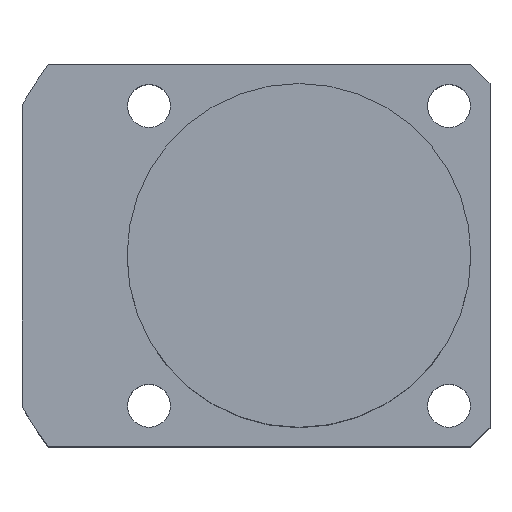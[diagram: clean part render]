
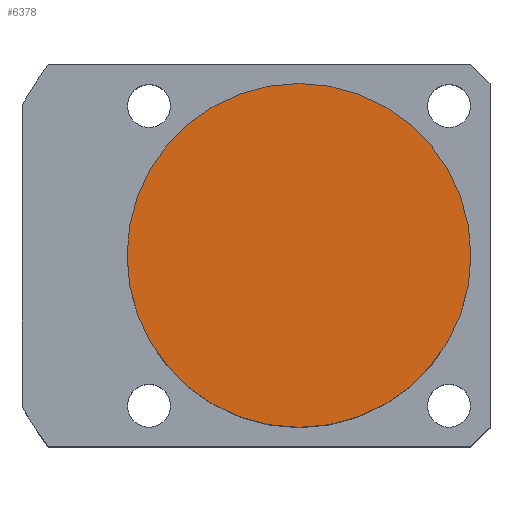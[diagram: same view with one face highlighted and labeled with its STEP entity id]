
A CAD part, top view. The second image highlights one B-rep face of the part: STEP entity #6378.
In plain terms, the highlighted planar face has unit normal (0, 0, 1).
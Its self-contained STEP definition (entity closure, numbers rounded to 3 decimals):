
#6320=CARTESIAN_POINT('',(-0.0,18.0,33.5));
#6321=VERTEX_POINT('',#6320);
#6328=CARTESIAN_POINT('',(18.0,0.0,33.5));
#6329=VERTEX_POINT('',#6328);
#6330=CARTESIAN_POINT('',(0.0,0.0,33.5));
#6331=DIRECTION('',(0.0,0.0,1.0));
#6332=DIRECTION('',(1.0,0.0,0.0));
#6333=AXIS2_PLACEMENT_3D('',#6330,#6331,#6332);
#6334=CIRCLE('',#6333,18.0);
#6335=EDGE_CURVE('no 3773',#6329,#6321,#6334,.T.);
#6337=CARTESIAN_POINT('',(-0.0,-18.0,33.5));
#6338=VERTEX_POINT('',#6337);
#6339=CARTESIAN_POINT('',(0.0,0.0,33.5));
#6340=DIRECTION('',(0.0,0.0,1.0));
#6341=DIRECTION('',(1.0,0.0,0.0));
#6342=AXIS2_PLACEMENT_3D('',#6339,#6340,#6341);
#6343=CIRCLE('',#6342,18.0);
#6344=EDGE_CURVE('no 3779',#6338,#6329,#6343,.T.);
#6362=ORIENTED_EDGE('',*,*,#6335,.T.);
#6363=CARTESIAN_POINT('',(0.0,0.0,33.5));
#6364=DIRECTION('',(0.0,0.0,1.0));
#6365=DIRECTION('',(1.0,0.0,0.0));
#6366=AXIS2_PLACEMENT_3D('',#6363,#6364,#6365);
#6367=CIRCLE('',#6366,18.0);
#6368=EDGE_CURVE('no 3796',#6321,#6338,#6367,.T.);
#6369=ORIENTED_EDGE('',*,*,#6368,.T.);
#6370=ORIENTED_EDGE('',*,*,#6344,.T.);
#6371=EDGE_LOOP('',(#6362,#6369,#6370));
#6372=FACE_OUTER_BOUND('',#6371,.T.);
#6373=CARTESIAN_POINT('',(0.0,0.0,33.5));
#6374=DIRECTION('',(0.0,0.0,1.0));
#6375=DIRECTION('',(1.0,0.0,0.0));
#6376=AXIS2_PLACEMENT_3D('',#6373,#6374,#6375);
#6377=PLANE('',#6376);
#6378=ADVANCED_FACE('no 3789',(#6372),#6377,.T.);
